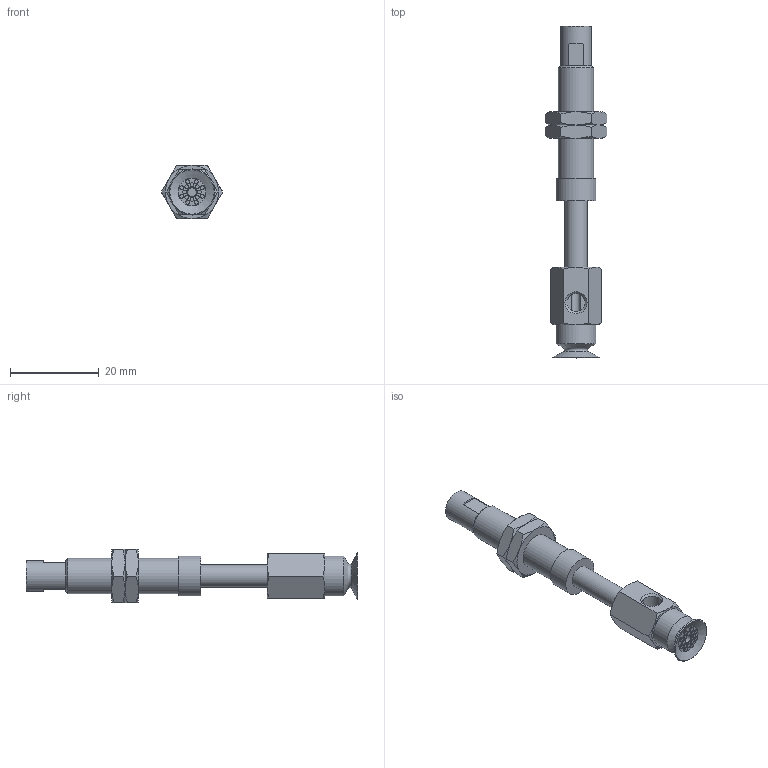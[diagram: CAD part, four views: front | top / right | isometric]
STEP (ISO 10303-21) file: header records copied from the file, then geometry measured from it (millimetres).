
FILE_DESCRIPTION(('STEP AP203'),'1');
FILE_NAME('.stp','2025-02-11T06:19:08',(' '),(' '),'Spatial InterOp 3D',' ',' ');
FILE_SCHEMA(('CONFIG_CONTROL_DESIGN'));
Length unit declared in the file: millimetre
Products named in the file (6): BNABPAYS-10A-15-※; NAPAYS-10A-15--M; NAPAYS-10A-15--F; Nut-10A-S; CONNECTOR-10A-15-PA; BPAG-10A-※_3D
Assembly tree (6 placements, depth 2):
  BNABPAYS-10A-15-※
    NAPAYS-10A-15--M
    NAPAYS-10A-15--F
    Nut-10A-S  x2
    CONNECTOR-10A-15-PA
    BPAG-10A-※_3D
Bounding box: 13.86 x 75 x 12 mm (x, y, z)
Volume: 3931.7 mm3; surface area: 4805.7 mm2
Topology: 6 solids, 6 shells, 161 faces, 319 edges, 195 vertices
Faces by surface type: plane 67, cone 51, cylinder 33, torus 10
Full cylindrical faces by diameter (mm): 0.9 x16, 2 x2, 4 x2, 4.134 x2, 5 x3, 6 x2, 7 x1, 7.188 x2, 8 x1, 9 x2
Entity records: 3748 total; most frequent: CARTESIAN_POINT 861, DIRECTION 560, ORIENTED_EDGE 418, AXIS2_PLACEMENT_3D 260, EDGE_LOOP 226, EDGE_CURVE 209, FACE_OUTER_BOUND 180, VERTEX_POINT 159
